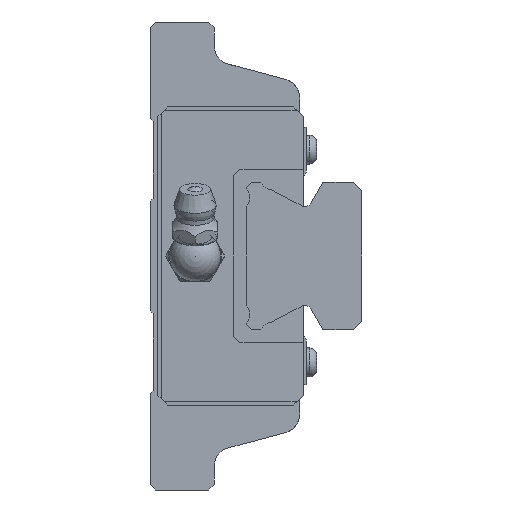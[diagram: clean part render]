
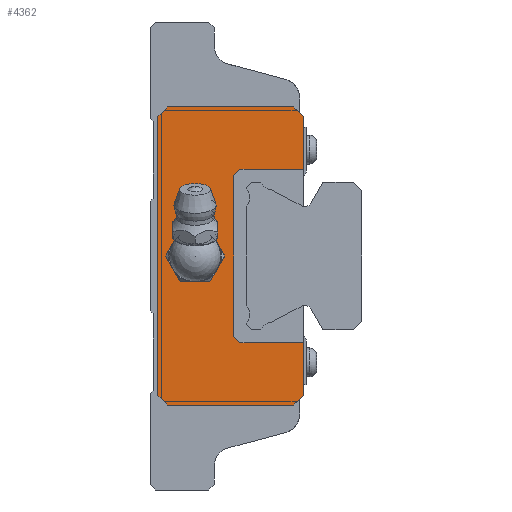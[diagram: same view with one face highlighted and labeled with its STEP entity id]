
A CAD part, left-side view. The second image highlights one B-rep face of the part: STEP entity #4362.
In plain terms, the highlighted planar face has unit normal (-1, 0, 0).
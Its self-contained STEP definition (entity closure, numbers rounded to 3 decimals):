
#120=LINE('',#6583,#514);
#135=LINE('',#6614,#529);
#142=LINE('',#6628,#536);
#146=LINE('',#6635,#540);
#156=LINE('',#6656,#550);
#159=LINE('',#6661,#553);
#167=LINE('',#6673,#561);
#192=LINE('',#6731,#586);
#317=LINE('',#7083,#711);
#323=LINE('',#7101,#717);
#324=LINE('',#7104,#718);
#325=LINE('',#7105,#719);
#326=LINE('',#7107,#720);
#327=LINE('',#7109,#721);
#514=VECTOR('',#5184,1000.);
#529=VECTOR('',#5201,1000.);
#536=VECTOR('',#5212,1000.);
#540=VECTOR('',#5218,1000.);
#550=VECTOR('',#5230,1000.);
#553=VECTOR('',#5235,1000.);
#561=VECTOR('',#5251,1000.);
#586=VECTOR('',#5296,1000.);
#711=VECTOR('',#5609,1000.);
#717=VECTOR('',#5627,1000.);
#718=VECTOR('',#5628,1000.);
#719=VECTOR('',#5629,1000.);
#720=VECTOR('',#5630,1000.);
#721=VECTOR('',#5631,1000.);
#926=PLANE('',#4722);
#1135=CIRCLE('',#4723,3.);
#1911=ORIENTED_EDGE('',*,*,#2796,.T.);
#1912=ORIENTED_EDGE('',*,*,#2797,.T.);
#1913=ORIENTED_EDGE('',*,*,#2798,.T.);
#1914=ORIENTED_EDGE('',*,*,#2624,.F.);
#1915=ORIENTED_EDGE('',*,*,#2574,.F.);
#1916=ORIENTED_EDGE('',*,*,#2570,.F.);
#1917=ORIENTED_EDGE('',*,*,#2563,.F.);
#1918=ORIENTED_EDGE('',*,*,#2595,.F.);
#1919=ORIENTED_EDGE('',*,*,#2548,.F.);
#1920=ORIENTED_EDGE('',*,*,#2587,.F.);
#1921=ORIENTED_EDGE('',*,*,#2584,.F.);
#1922=ORIENTED_EDGE('',*,*,#2789,.F.);
#1923=ORIENTED_EDGE('',*,*,#2799,.T.);
#1924=ORIENTED_EDGE('',*,*,#2800,.T.);
#1925=ORIENTED_EDGE('',*,*,#2801,.T.);
#2548=EDGE_CURVE('',#3107,#3108,#120,.T.);
#2563=EDGE_CURVE('',#3122,#3123,#135,.T.);
#2570=EDGE_CURVE('',#3123,#3128,#142,.T.);
#2574=EDGE_CURVE('',#3128,#3130,#146,.T.);
#2584=EDGE_CURVE('',#3139,#3140,#156,.T.);
#2587=EDGE_CURVE('',#3140,#3107,#159,.T.);
#2595=EDGE_CURVE('',#3108,#3122,#167,.T.);
#2624=EDGE_CURVE('',#3130,#3164,#192,.T.);
#2789=EDGE_CURVE('',#3268,#3139,#317,.T.);
#2796=EDGE_CURVE('',#3274,#3274,#1135,.T.);
#2797=EDGE_CURVE('',#3275,#3276,#323,.T.);
#2798=EDGE_CURVE('',#3276,#3164,#324,.T.);
#2799=EDGE_CURVE('',#3268,#3277,#325,.T.);
#2800=EDGE_CURVE('',#3277,#3278,#326,.T.);
#2801=EDGE_CURVE('',#3278,#3275,#327,.T.);
#3107=VERTEX_POINT('',#6582);
#3108=VERTEX_POINT('',#6584);
#3122=VERTEX_POINT('',#6613);
#3123=VERTEX_POINT('',#6615);
#3128=VERTEX_POINT('',#6629);
#3130=VERTEX_POINT('',#6636);
#3139=VERTEX_POINT('',#6655);
#3140=VERTEX_POINT('',#6657);
#3164=VERTEX_POINT('',#6732);
#3268=VERTEX_POINT('',#7082);
#3274=VERTEX_POINT('',#7100);
#3275=VERTEX_POINT('',#7102);
#3276=VERTEX_POINT('',#7103);
#3277=VERTEX_POINT('',#7106);
#3278=VERTEX_POINT('',#7108);
#3615=EDGE_LOOP('',(#1911));
#3616=EDGE_LOOP('',(#1912,#1913,#1914,#1915,#1916,#1917,#1918,#1919,#1920,
#1921,#1922,#1923,#1924,#1925));
#3992=FACE_BOUND('',#3615,.T.);
#3993=FACE_BOUND('',#3616,.T.);
#4362=ADVANCED_FACE('',(#3992,#3993),#926,.F.);
#4722=AXIS2_PLACEMENT_3D('',#7098,#5623,#5624);
#4723=AXIS2_PLACEMENT_3D('',#7099,#5625,#5626);
#5184=DIRECTION('',(0.,0.707,0.707));
#5201=DIRECTION('',(0.,-0.707,0.707));
#5212=DIRECTION('',(0.,-1.,0.));
#5218=DIRECTION('',(0.,-0.707,-0.707));
#5230=DIRECTION('',(0.,0.707,-0.707));
#5235=DIRECTION('',(0.,1.,0.));
#5251=DIRECTION('',(0.,0.,1.));
#5296=DIRECTION('',(0.,0.,-1.));
#5609=DIRECTION('',(0.,0.,-1.));
#5623=DIRECTION('',(1.,0.,0.));
#5624=DIRECTION('',(0.,0.,-1.));
#5625=DIRECTION('',(1.,0.,0.));
#5626=DIRECTION('',(0.,0.,-1.));
#5627=DIRECTION('',(0.,-0.707,0.707));
#5628=DIRECTION('',(0.,-1.,0.));
#5629=DIRECTION('',(0.,1.,0.));
#5630=DIRECTION('',(0.,0.707,0.707));
#5631=DIRECTION('',(0.,0.,1.));
#6582=CARTESIAN_POINT('',(-27.6,23.3,-23.25));
#6583=CARTESIAN_POINT('',(-27.6,23.3,-23.25));
#6584=CARTESIAN_POINT('',(-27.6,24.8,-21.75));
#6613=CARTESIAN_POINT('',(-27.6,24.8,21.75));
#6614=CARTESIAN_POINT('',(-27.6,24.8,21.75));
#6615=CARTESIAN_POINT('',(-27.6,23.3,23.25));
#6628=CARTESIAN_POINT('',(-27.6,23.3,23.25));
#6629=CARTESIAN_POINT('',(-27.6,3.6,23.25));
#6635=CARTESIAN_POINT('',(-27.6,3.6,23.25));
#6636=CARTESIAN_POINT('',(-27.6,2.1,21.75));
#6655=CARTESIAN_POINT('',(-27.6,2.1,-21.75));
#6656=CARTESIAN_POINT('',(-27.6,2.1,-21.75));
#6657=CARTESIAN_POINT('',(-27.6,3.6,-23.25));
#6661=CARTESIAN_POINT('',(-27.6,3.6,-23.25));
#6673=CARTESIAN_POINT('',(-27.6,24.8,-21.75));
#6731=CARTESIAN_POINT('',(-27.6,2.1,21.75));
#6732=CARTESIAN_POINT('',(-27.6,2.1,13.5));
#7082=CARTESIAN_POINT('',(-27.6,2.1,-13.5));
#7083=CARTESIAN_POINT('',(-27.6,2.1,21.75));
#7098=CARTESIAN_POINT('',(-27.6,0.,0.));
#7099=CARTESIAN_POINT('',(-27.6,19.,0.));
#7100=CARTESIAN_POINT('',(-27.6,19.,-3.));
#7101=CARTESIAN_POINT('',(-27.6,13.,12.5));
#7102=CARTESIAN_POINT('',(-27.6,13.,12.5));
#7103=CARTESIAN_POINT('',(-27.6,12.,13.5));
#7104=CARTESIAN_POINT('',(-27.6,12.,13.5));
#7105=CARTESIAN_POINT('',(-27.6,2.1,-13.5));
#7106=CARTESIAN_POINT('',(-27.6,12.,-13.5));
#7107=CARTESIAN_POINT('',(-27.6,12.,-13.5));
#7108=CARTESIAN_POINT('',(-27.6,13.,-12.5));
#7109=CARTESIAN_POINT('',(-27.6,13.,-12.5));
